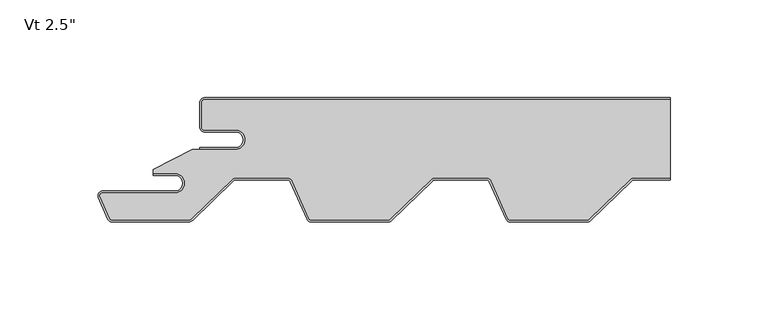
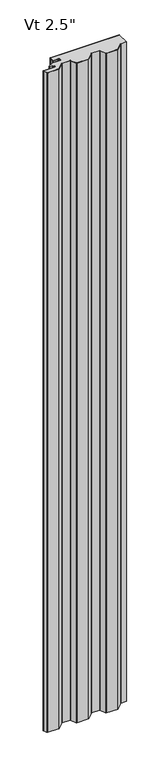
"""IFC4 building model written with IfcOpenShell, lengths in millimetres: plate geometry."""

import ifcopenshell
import ifcopenshell.guid

model = None  # the IFC model being written
_history = None  # IfcOwnerHistory: only IFC2X3 demands one
_inside = {}  # id of a spatial element -> (the spatial element, [elements in it])
_under = {}  # id of a project, library or spatial element -> (it, [spatial elements below it])
_declared = {}  # id of a project -> (the project, [libraries it declares])
_typed = {}  # id of a type object -> (the type object, [elements of that type])
_made_of = {}  # id of a material, layer set ... -> (it, [elements and type objects made of it])


def new_model(schema):
    """Start an empty IFC model of exactly this schema.

    Asked for "IFC4X3", IfcOpenShell would pick the latest addendum, in which some entities
    have other attributes; the version numbers below select the first issue.
    IFC2X3 requires an IfcOwnerHistory on every rooted entity: one is made here for all.
    """
    global model, _history
    if schema == "IFC4X3":
        model = ifcopenshell.file(schema_version=(4, 3, 0, 0))
    else:
        model = ifcopenshell.file(schema=schema)
    _inside.clear()
    _under.clear()
    _declared.clear()
    _typed.clear()
    _made_of.clear()
    _history = None
    if model.schema == "IFC2X3":
        org = make("IfcOrganization", Name="unknown")
        user = make(
            "IfcPersonAndOrganization",
            ThePerson=make("IfcPerson", FamilyName="unknown"),
            TheOrganization=org,
        )
        app = make(
            "IfcApplication",
            ApplicationDeveloper=org,
            Version="unknown",
            ApplicationFullName="unknown",
            ApplicationIdentifier="unknown",
        )
        _history = make(
            "IfcOwnerHistory",
            OwningUser=user,
            OwningApplication=app,
            ChangeAction="ADDED",
            CreationDate=0,
        )
    return model


def make(cls, **values):
    """One entity of the class cls with the attributes given. An attribute that is None is left unset."""
    return model.create_entity(
        cls, **{name: value for name, value in values.items() if value is not None}
    )


def rooted(cls, **values):
    """An entity with a GlobalId (a new one), such as an element, a storey or a relation."""
    return make(cls, GlobalId=ifcopenshell.guid.new(), OwnerHistory=_history, **values)


def si_unit(unit_type, name, prefix=None):
    """IfcSIUnit, for example si_unit("LENGTHUNIT", "METRE", prefix="MILLI")."""
    return make("IfcSIUnit", UnitType=unit_type, Prefix=prefix, Name=name)


def assignment(units):
    """IfcUnitAssignment: the units of a project."""
    return None if units is None else make("IfcUnitAssignment", Units=units)


def point(xyz):
    """IfcCartesianPoint."""
    return None if xyz is None else make("IfcCartesianPoint", Coordinates=xyz)


def direction(xyz):
    """IfcDirection."""
    return None if xyz is None else make("IfcDirection", DirectionRatios=xyz)


def frame(location, z_axis=None, x_axis=None):
    """IfcAxis2Placement3D, a coordinate frame: its origin and axes. An axis left out is left unset."""
    return make(
        "IfcAxis2Placement3D",
        Location=point(location),
        Axis=direction(z_axis),
        RefDirection=direction(x_axis),
    )


def frame_2d(location, x_axis=None):
    """IfcAxis2Placement2D, a coordinate frame in the plane: its origin and x axis."""
    return make(
        "IfcAxis2Placement2D", Location=point(location), RefDirection=direction(x_axis)
    )


def origin():
    """The frame at (0, 0, 0) with its axes left unset."""
    return frame((0.0, 0.0, 0.0))


def origin_with_axes():
    """The frame at (0, 0, 0) with the z axis (0, 0, 1) and the x axis (1, 0, 0) written out."""
    return frame((0.0, 0.0, 0.0), z_axis=(0.0, 0.0, 1.0), x_axis=(1.0, 0.0, 0.0))


def place(relative_to, where):
    """IfcLocalPlacement: puts the frame where relative to a parent placement (None: the world)."""
    return make(
        "IfcLocalPlacement", PlacementRelTo=relative_to, RelativePlacement=where
    )


def context(
    kind, dimensions, precision=None, world=None, true_north=None, identifier=None
):
    """IfcGeometricRepresentationContext, for example the 3D "Model" context."""
    return make(
        "IfcGeometricRepresentationContext",
        ContextIdentifier=identifier,
        ContextType=kind,
        CoordinateSpaceDimension=dimensions,
        Precision=precision,
        WorldCoordinateSystem=world,
        TrueNorth=true_north,
    )


def project(units=None, contexts=None):
    """IfcProject with its units and contexts."""
    return rooted(
        "IfcProject",
        Name="project",
        RepresentationContexts=contexts,
        UnitsInContext=assignment(units),
    )


def spatial(cls, under=None, at=None, **own):
    """A site, building, storey or space (cls), placed at a placement, below another one or the project."""
    s = rooted(cls, ObjectPlacement=at, **own)
    if under is not None:
        _under.setdefault(under.id(), (under, []))[1].append(s)
    return s


def polyline(points):
    """IfcPolyline through the points."""
    return make("IfcPolyline", Points=[point(p) for p in points])


def circle_curve(where, radius):
    """IfcCircle in the frame where."""
    return make("IfcCircle", Position=where, Radius=radius)


def trimmed(basis, trim1, trim2, sense, master):
    """IfcTrimmedCurve: the piece of a basis curve between two trims."""
    return make(
        "IfcTrimmedCurve",
        BasisCurve=basis,
        Trim1=trim1,
        Trim2=trim2,
        SenseAgreement=sense,
        MasterRepresentation=master,
    )


def segment(curve, same_sense, transition):
    """IfcCompositeCurveSegment."""
    return make(
        "IfcCompositeCurveSegment",
        Transition=transition,
        SameSense=same_sense,
        ParentCurve=curve,
    )


def composite_curve(segments, self_intersect=None):
    """IfcCompositeCurve: segments joined end to end."""
    return make("IfcCompositeCurve", Segments=segments, SelfIntersect=self_intersect)


def outline(outer, holes=None, kind="AREA"):
    """IfcArbitraryClosedProfileDef: a profile drawn as a closed curve; with holes, ...WithVoids."""
    if holes is None:
        return make("IfcArbitraryClosedProfileDef", ProfileType=kind, OuterCurve=outer)
    return make(
        "IfcArbitraryProfileDefWithVoids",
        ProfileType=kind,
        OuterCurve=outer,
        InnerCurves=holes,
    )


def extrude(swept, where, along, depth):
    """IfcExtrudedAreaSolid: the profile swept, set in the frame where, extruded along a direction by depth."""
    return make(
        "IfcExtrudedAreaSolid",
        SweptArea=swept,
        Position=where,
        ExtrudedDirection=direction(along),
        Depth=depth,
    )


def shape(context_of_items, identifier, shape_type, items):
    """IfcShapeRepresentation: the items that make up one representation, for example the "Body"."""
    return make(
        "IfcShapeRepresentation",
        ContextOfItems=context_of_items,
        RepresentationIdentifier=identifier,
        RepresentationType=shape_type,
        Items=items,
    )


def source(mapping_origin, context_of_items, identifier, shape_type, items):
    """IfcRepresentationMap: a shape defined once, which mapped items show again and again."""
    return make(
        "IfcRepresentationMap",
        MappingOrigin=mapping_origin,
        MappedRepresentation=shape(context_of_items, identifier, shape_type, items),
    )


def transform(
    local_origin,
    x_axis=None,
    y_axis=None,
    z_axis=None,
    scale=None,
    scale2=None,
    scale3=None,
    uniform=True,
):
    """IfcCartesianTransformationOperator3D, or its non-uniform kind. x_axis, y_axis, z_axis: its Axis1, 2, 3."""
    if uniform:
        return make(
            "IfcCartesianTransformationOperator3D",
            Axis1=direction(x_axis),
            Axis2=direction(y_axis),
            LocalOrigin=point(local_origin),
            Scale=scale,
            Axis3=direction(z_axis),
        )
    return make(
        "IfcCartesianTransformationOperator3DnonUniform",
        Axis1=direction(x_axis),
        Axis2=direction(y_axis),
        LocalOrigin=point(local_origin),
        Scale=scale,
        Axis3=direction(z_axis),
        Scale2=scale2,
        Scale3=scale3,
    )


def mapped(mapping_source, mapping_target):
    """IfcMappedItem: shows the shape of a source again, moved by a transform."""
    return make(
        "IfcMappedItem", MappingSource=mapping_source, MappingTarget=mapping_target
    )


def made_of(thing, what):
    """Note that an element or type object is made of a material, layer set ...; save() writes the relation."""
    if what is not None:
        _made_of.setdefault(what.id(), (what, []))[1].append(thing)
    return thing


def element(
    cls,
    number,
    at=None,
    inside=None,
    cuts=None,
    type_object=None,
    material=None,
    context=None,
    identifier="Body",
    shape_type=None,
    held_by="IfcProductDefinitionShape",
    body=None,
    shapes=None,
    **own,
):
    """One element of the class cls, such as IfcWall. Its Tag is "e" and its number.

    at: its placement. inside: the storey or other place that contains it. cuts: it is an
    opening in that element (IfcRelVoidsElement). A single representation is given by context,
    identifier, shape_type and body (its items); several are given by shapes. held_by: the class
    of the entity that holds the representations. save() writes the other relations.
    """
    e = rooted(cls, Tag="e%d" % number, ObjectPlacement=at, **own)
    if body is not None:
        shapes = [shape(context, identifier, shape_type, body)]
    if shapes is not None:
        e.Representation = make(held_by, Representations=shapes)
    if inside is not None:
        _inside.setdefault(inside.id(), (inside, []))[1].append(e)
    if cuts is not None:
        rooted(
            "IfcRelVoidsElement", RelatingBuildingElement=cuts, RelatedOpeningElement=e
        )
    if type_object is not None:
        _typed.setdefault(type_object.id(), (type_object, []))[1].append(e)
    return made_of(e, material)


def aggregate(whole, parts):
    """IfcRelAggregates: a whole, such as a stair, and the parts it consists of."""
    return rooted("IfcRelAggregates", RelatingObject=whole, RelatedObjects=parts)


def save(model, path):
    """Write the relations noted so far, then the file.

    IfcRelAggregates (storeys below a building ...), IfcRelContainedInSpatialStructure (elements
    in a storey), IfcRelDefinesByType, IfcRelAssociatesMaterial and IfcRelDeclares: one each for
    every whole, place, type object, material and project.
    """
    for whole, parts in _under.values():
        aggregate(whole, parts)
    for where, things in _inside.values():
        rooted(
            "IfcRelContainedInSpatialStructure",
            RelatedElements=things,
            RelatingStructure=where,
        )
    for kind, things in _typed.values():
        rooted("IfcRelDefinesByType", RelatedObjects=things, RelatingType=kind)
    for what, things in _made_of.values():
        rooted("IfcRelAssociatesMaterial", RelatedObjects=things, RelatingMaterial=what)
    for by, libraries in _declared.values():
        rooted("IfcRelDeclares", RelatingContext=by, RelatedDefinitions=libraries)
    model.write(path)


def plate_59d61003(model_context):
    return source(origin(), model_context, "Body", "SweptSolid", [
        extrude(outline(composite_curve([segment(trimmed(circle_curve(frame_2d((-101.3437498, -21.4324412)), 4.96875), [point((-101.3437498, -26.4011912))], [point((-101.3437498, -16.4636912))], True, "CARTESIAN"), True, "CONTINUOUS"), segment(polyline([(-101.3437498, -16.4636912), (-117.2187498, -16.4636912)]), True, "CONTINUOUS"), segment(trimmed(circle_curve(frame_2d((-117.2187498, -15.0824412)), 1.38125), [point((-117.2187498, -16.4636912))], [point((-118.5999998, -15.0824412))], False, "CARTESIAN"), True, "CONTINUOUS"), segment(polyline([(-118.5999998, -15.0824412), (-118.5999998, -2.3824412)]), True, "CONTINUOUS"), segment(trimmed(circle_curve(frame_2d((-117.2187498, -2.3824412)), 1.38125), [point((-118.5999998, -2.3824412))], [point((-117.2187498, -1.0011912))], False, "CARTESIAN"), True, "CONTINUOUS"), segment(polyline([(-117.2187498, -1.0011912), (120.4062498, -1.0011912), (120.4062498, -40.9862), (101.8742004, -40.9862)]), True, "CONTINUOUS"), segment(trimmed(circle_curve(frame_2d((101.8742004, -43.5737)), 2.5875), [point((101.8742004, -40.9862))], [point((100.0745498, -41.7145567))], True, "CARTESIAN"), True, "CONTINUOUS"), segment(polyline([(100.0745498, -41.7145567), (79.0036464, -62.1111912)]), True, "CONTINUOUS"), segment(trimmed(circle_curve(frame_2d((78.0429633, -61.11875)), 1.38125), [point((79.0036464, -62.1111912))], [point((78.0429633, -62.5))], False, "CARTESIAN"), True, "CONTINUOUS"), segment(polyline([(78.0429633, -62.5), (38.9062559, -62.5)]), True, "CONTINUOUS"), segment(trimmed(circle_curve(frame_2d((38.9062559, -61.11875)), 1.38125), [point((38.9062559, -62.5))], [point((37.6432556, -61.6779296))], False, "CARTESIAN"), True, "CONTINUOUS"), segment(polyline([(37.6432556, -61.6779296), (29.1640307, -42.5261871)]), True, "CONTINUOUS"), segment(trimmed(circle_curve(frame_2d((26.7980483, -43.5737)), 2.5875), [point((29.1640307, -42.5261871))], [point((26.7980483, -40.9862))], True, "CARTESIAN"), True, "CONTINUOUS"), segment(polyline([(26.7980483, -40.9862), (0.2742004, -40.9862)]), True, "CONTINUOUS"), segment(trimmed(circle_curve(frame_2d((0.2742004, -43.5737)), 2.5875), [point((0.2742004, -40.9862))], [point((-1.5254502, -41.7145567))], True, "CARTESIAN"), True, "CONTINUOUS"), segment(polyline([(-1.5254502, -41.7145567), (-22.5963536, -62.1111912)]), True, "CONTINUOUS"), segment(trimmed(circle_curve(frame_2d((-23.5570367, -61.11875)), 1.38125), [point((-22.5963536, -62.1111912))], [point((-23.5570367, -62.5))], False, "CARTESIAN"), True, "CONTINUOUS"), segment(polyline([(-23.5570367, -62.5), (-62.6937441, -62.5)]), True, "CONTINUOUS"), segment(trimmed(circle_curve(frame_2d((-62.6937441, -61.11875)), 1.38125), [point((-62.6937441, -62.5))], [point((-63.9567444, -61.6779296))], False, "CARTESIAN"), True, "CONTINUOUS"), segment(polyline([(-63.9567444, -61.6779296), (-72.4359693, -42.5261871)]), True, "CONTINUOUS"), segment(trimmed(circle_curve(frame_2d((-74.8019517, -43.5737)), 2.5875), [point((-72.4359693, -42.5261871))], [point((-74.8019517, -40.9862))], True, "CARTESIAN"), True, "CONTINUOUS"), segment(polyline([(-74.8019517, -40.9862), (-101.3257996, -40.9862)]), True, "CONTINUOUS"), segment(trimmed(circle_curve(frame_2d((-101.3257996, -43.5737)), 2.5875), [point((-101.3257996, -40.9862))], [point((-103.1254502, -41.7145567))], True, "CARTESIAN"), True, "CONTINUOUS"), segment(polyline([(-103.1254502, -41.7145567), (-123.987693, -61.9092077)]), True, "CONTINUOUS"), segment(trimmed(circle_curve(frame_2d((-125.4474444, -60.4012)), 2.0988), [point((-123.987693, -61.9092077))], [point((-125.4474444, -62.5))], False, "CARTESIAN"), True, "CONTINUOUS"), segment(polyline([(-125.4474444, -62.5), (-164.2937441, -62.5)]), True, "CONTINUOUS"), segment(trimmed(circle_curve(frame_2d((-164.2937441, -61.11875)), 1.38125), [point((-164.2937441, -62.5))], [point((-165.5567444, -61.6779296))], False, "CARTESIAN"), True, "CONTINUOUS"), segment(polyline([(-165.5567444, -61.6779296), (-170.4761551, -50.5666208)]), True, "CONTINUOUS"), segment(trimmed(circle_curve(frame_2d((-169.2131548, -50.0074412)), 1.38125), [point((-170.4761551, -50.5666208))], [point((-169.2131548, -48.6261912))], False, "CARTESIAN"), True, "CONTINUOUS"), segment(polyline([(-169.2131548, -48.6261912), (-132.2999998, -48.6261912)]), True, "CONTINUOUS"), segment(trimmed(circle_curve(frame_2d((-132.2999998, -43.6574412)), 4.96875), [point((-132.2999998, -48.6261912))], [point((-132.2999998, -38.6886912))], True, "CARTESIAN"), True, "CONTINUOUS"), segment(polyline([(-132.2999998, -38.6886912), (-143.4124998, -38.6886912), (-143.4124998, -36.533822), (-123.591411, -26.4011912), (-101.3437498, -26.4011912)]), True, "CONTINUOUS")], self_intersect=False)), origin_with_axes(), (0.0, 0.0, 1.0), 2400.0),
        extrude(outline(composite_curve([segment(polyline([(-119.5999998, -25.4), (-101.3437498, -25.4)]), True, "CONTINUOUS"), segment(trimmed(circle_curve(frame_2d((-101.3437498, -21.43125)), 3.96875), [point((-101.3437498, -25.4))], [point((-101.3437498, -17.4625))], True, "CARTESIAN"), True, "CONTINUOUS"), segment(polyline([(-101.3437498, -17.4625), (-117.2187498, -17.4625)]), True, "CONTINUOUS"), segment(trimmed(circle_curve(frame_2d((-117.2187498, -15.08125)), 2.38125), [point((-117.2187498, -17.4625))], [point((-119.5999998, -15.08125))], False, "CARTESIAN"), True, "CONTINUOUS"), segment(polyline([(-119.5999998, -15.08125), (-119.5999998, -2.38125)]), True, "CONTINUOUS"), segment(trimmed(circle_curve(frame_2d((-117.2187498, -2.38125)), 2.38125), [point((-119.5999998, -2.38125))], [point((-117.2187498, 0.0))], False, "CARTESIAN"), True, "CONTINUOUS"), segment(polyline([(-117.2187498, 0.0), (120.4062498, 0.0), (120.4062498, -1.0), (-117.2187498, -1.0)]), True, "CONTINUOUS"), segment(trimmed(circle_curve(frame_2d((-117.2187498, -2.38125)), 1.38125), [point((-117.2187498, -1.0))], [point((-118.5999998, -2.38125))], True, "CARTESIAN"), True, "CONTINUOUS"), segment(polyline([(-118.5999998, -2.38125), (-118.5999998, -15.08125)]), True, "CONTINUOUS"), segment(trimmed(circle_curve(frame_2d((-117.2187498, -15.08125)), 1.38125), [point((-118.5999998, -15.08125))], [point((-117.2187498, -16.4625))], True, "CARTESIAN"), True, "CONTINUOUS"), segment(polyline([(-117.2187498, -16.4625), (-101.3437498, -16.4625)]), True, "CONTINUOUS"), segment(trimmed(circle_curve(frame_2d((-101.3437498, -21.43125)), 4.96875), [point((-101.3437498, -16.4625))], [point((-101.3437498, -26.4))], False, "CARTESIAN"), True, "CONTINUOUS"), segment(polyline([(-101.3437498, -26.4), (-119.5999998, -26.4), (-119.5999998, -25.4)]), True, "CONTINUOUS")], self_intersect=False)), origin_with_axes(), (0.0, 0.0, 1.0), 2400.0),
        extrude(outline(composite_curve([segment(trimmed(circle_curve(frame_2d((-132.2999998, -43.6574412)), 3.96875), [point((-132.2999998, -47.6261912))], [point((-132.2999998, -39.6886912))], True, "CARTESIAN"), True, "CONTINUOUS"), segment(polyline([(-132.2999998, -39.6886912), (-143.4124998, -39.6886912), (-143.4124998, -38.6886912), (-132.2999998, -38.6886912)]), True, "CONTINUOUS"), segment(trimmed(circle_curve(frame_2d((-132.2999998, -43.6574412)), 4.96875), [point((-132.2999998, -38.6886912))], [point((-132.2999998, -48.6261912))], False, "CARTESIAN"), True, "CONTINUOUS"), segment(polyline([(-132.2999998, -48.6261912), (-169.2131548, -48.6261912)]), True, "CONTINUOUS"), segment(trimmed(circle_curve(frame_2d((-169.2131548, -50.0074412)), 1.38125), [point((-169.2131548, -48.6261912))], [point((-170.4761551, -50.5666208))], True, "CARTESIAN"), True, "CONTINUOUS"), segment(polyline([(-170.4761551, -50.5666208), (-165.5567444, -61.6779296)]), True, "CONTINUOUS"), segment(trimmed(circle_curve(frame_2d((-164.2937441, -61.11875)), 1.38125), [point((-165.5567444, -61.6779296))], [point((-164.2937441, -62.5))], True, "CARTESIAN"), True, "CONTINUOUS"), segment(polyline([(-164.2937441, -62.5), (-125.4474444, -62.5)]), True, "CONTINUOUS"), segment(trimmed(circle_curve(frame_2d((-125.4474444, -60.4012)), 2.0988), [point((-125.4474444, -62.5))], [point((-123.987693, -61.9092077))], True, "CARTESIAN"), True, "CONTINUOUS"), segment(polyline([(-123.987693, -61.9092077), (-103.1254502, -41.7145567)]), True, "CONTINUOUS"), segment(trimmed(circle_curve(frame_2d((-101.3257996, -43.5737)), 2.5875), [point((-103.1254502, -41.7145567))], [point((-101.3257996, -40.9862))], False, "CARTESIAN"), True, "CONTINUOUS"), segment(polyline([(-101.3257996, -40.9862), (-74.8019517, -40.9862)]), True, "CONTINUOUS"), segment(trimmed(circle_curve(frame_2d((-74.8019517, -43.5737)), 2.5875), [point((-74.8019517, -40.9862))], [point((-72.4359693, -42.5261871))], False, "CARTESIAN"), True, "CONTINUOUS"), segment(polyline([(-72.4359693, -42.5261871), (-63.9567444, -61.6779296)]), True, "CONTINUOUS"), segment(trimmed(circle_curve(frame_2d((-62.6937441, -61.11875)), 1.38125), [point((-63.9567444, -61.6779296))], [point((-62.6937441, -62.5))], True, "CARTESIAN"), True, "CONTINUOUS"), segment(polyline([(-62.6937441, -62.5), (-23.5570367, -62.5)]), True, "CONTINUOUS"), segment(trimmed(circle_curve(frame_2d((-23.5570367, -61.11875)), 1.38125), [point((-23.5570367, -62.5))], [point((-22.5963536, -62.1111912))], True, "CARTESIAN"), True, "CONTINUOUS"), segment(polyline([(-22.5963536, -62.1111912), (-1.5254502, -41.7145567)]), True, "CONTINUOUS"), segment(trimmed(circle_curve(frame_2d((0.2742004, -43.5737)), 2.5875), [point((-1.5254502, -41.7145567))], [point((0.2742004, -40.9862))], False, "CARTESIAN"), True, "CONTINUOUS"), segment(polyline([(0.2742004, -40.9862), (26.7980483, -40.9862)]), True, "CONTINUOUS"), segment(trimmed(circle_curve(frame_2d((26.7980483, -43.5737)), 2.5875), [point((26.7980483, -40.9862))], [point((29.1640307, -42.5261871))], False, "CARTESIAN"), True, "CONTINUOUS"), segment(polyline([(29.1640307, -42.5261871), (37.6432556, -61.6779296)]), True, "CONTINUOUS"), segment(trimmed(circle_curve(frame_2d((38.9062559, -61.11875)), 1.38125), [point((37.6432556, -61.6779296))], [point((38.9062559, -62.5))], True, "CARTESIAN"), True, "CONTINUOUS"), segment(polyline([(38.9062559, -62.5), (78.0429633, -62.5)]), True, "CONTINUOUS"), segment(trimmed(circle_curve(frame_2d((78.0429633, -61.11875)), 1.38125), [point((78.0429633, -62.5))], [point((79.0036464, -62.1111912))], True, "CARTESIAN"), True, "CONTINUOUS"), segment(polyline([(79.0036464, -62.1111912), (100.0745498, -41.7145567)]), True, "CONTINUOUS"), segment(trimmed(circle_curve(frame_2d((101.8742004, -43.5737)), 2.5875), [point((100.0745498, -41.7145567))], [point((101.8742004, -40.9862))], False, "CARTESIAN"), True, "CONTINUOUS"), segment(polyline([(101.8742004, -40.9862), (120.4062498, -40.9862), (120.4062498, -41.9862), (101.8742004, -41.9862)]), True, "CONTINUOUS"), segment(trimmed(circle_curve(frame_2d((101.8742004, -43.5737)), 1.5875), [point((101.8742004, -41.9862))], [point((100.7700669, -42.4330662))], True, "CARTESIAN"), True, "CONTINUOUS"), segment(polyline([(100.7700669, -42.4330662), (79.6991635, -62.8297007)]), True, "CONTINUOUS"), segment(trimmed(circle_curve(frame_2d((78.0429633, -61.11875)), 2.38125), [point((79.6991635, -62.8297007))], [point((78.0429633, -63.5))], False, "CARTESIAN"), True, "CONTINUOUS"), segment(polyline([(78.0429633, -63.5), (38.9062559, -63.5)]), True, "CONTINUOUS"), segment(trimmed(circle_curve(frame_2d((38.9062559, -61.11875)), 2.38125), [point((38.9062559, -63.5))], [point((36.7288662, -62.0827655))], False, "CARTESIAN"), True, "CONTINUOUS"), segment(polyline([(36.7288662, -62.0827655), (28.2496414, -42.931023)]), True, "CONTINUOUS"), segment(trimmed(circle_curve(frame_2d((26.7980483, -43.5737)), 1.5875), [point((28.2496414, -42.931023))], [point((26.7980483, -41.9862))], True, "CARTESIAN"), True, "CONTINUOUS"), segment(polyline([(26.7980483, -41.9862), (0.2742004, -41.9862)]), True, "CONTINUOUS"), segment(trimmed(circle_curve(frame_2d((0.2742004, -43.5737)), 1.5875), [point((0.2742004, -41.9862))], [point((-0.8299331, -42.4330662))], True, "CARTESIAN"), True, "CONTINUOUS"), segment(polyline([(-0.8299331, -42.4330662), (-21.9008365, -62.8297007)]), True, "CONTINUOUS"), segment(trimmed(circle_curve(frame_2d((-23.5570367, -61.11875)), 2.38125), [point((-21.9008365, -62.8297007))], [point((-23.5570367, -63.5))], False, "CARTESIAN"), True, "CONTINUOUS"), segment(polyline([(-23.5570367, -63.5), (-62.6937441, -63.5)]), True, "CONTINUOUS"), segment(trimmed(circle_curve(frame_2d((-62.6937441, -61.11875)), 2.38125), [point((-62.6937441, -63.5))], [point((-64.8711338, -62.0827655))], False, "CARTESIAN"), True, "CONTINUOUS"), segment(polyline([(-64.8711338, -62.0827655), (-73.3503586, -42.931023)]), True, "CONTINUOUS"), segment(trimmed(circle_curve(frame_2d((-74.8019517, -43.5737)), 1.5875), [point((-73.3503586, -42.931023))], [point((-74.8019517, -41.9862))], True, "CARTESIAN"), True, "CONTINUOUS"), segment(polyline([(-74.8019517, -41.9862), (-101.3257996, -41.9862)]), True, "CONTINUOUS"), segment(trimmed(circle_curve(frame_2d((-101.3257996, -43.5737)), 1.5875), [point((-101.3257996, -41.9862))], [point((-102.4299331, -42.4330662))], True, "CARTESIAN"), True, "CONTINUOUS"), segment(polyline([(-102.4299331, -42.4330662), (-123.2921758, -62.6277172)]), True, "CONTINUOUS"), segment(trimmed(circle_curve(frame_2d((-125.4474444, -60.4012)), 3.0988), [point((-123.2921758, -62.6277172))], [point((-125.4474444, -63.5))], False, "CARTESIAN"), True, "CONTINUOUS"), segment(polyline([(-125.4474444, -63.5), (-164.2937441, -63.5)]), True, "CONTINUOUS"), segment(trimmed(circle_curve(frame_2d((-164.2937441, -61.11875)), 2.38125), [point((-164.2937441, -63.5))], [point((-166.4711338, -62.0827655))], False, "CARTESIAN"), True, "CONTINUOUS"), segment(polyline([(-166.4711338, -62.0827655), (-171.3905444, -50.9714567)]), True, "CONTINUOUS"), segment(trimmed(circle_curve(frame_2d((-169.2131548, -50.0074412)), 2.38125), [point((-171.3905444, -50.9714567))], [point((-169.2131548, -47.6261912))], False, "CARTESIAN"), True, "CONTINUOUS"), segment(polyline([(-169.2131548, -47.6261912), (-132.2999998, -47.6261912)]), True, "CONTINUOUS")], self_intersect=False)), origin_with_axes(), (0.0, 0.0, 1.0), 2400.0),
    ])


if __name__ == "__main__":
    model = new_model("IFC4")
    model_context = context("Model", 3, world=origin())
    ifc_project = project(units=[si_unit("LENGTHUNIT", "METRE", prefix="MILLI")], contexts=[model_context])
    site = spatial("IfcSite", under=ifc_project)
    building = spatial("IfcBuilding", under=site)
    placement = place(None, origin())
    plate_shape = plate_59d61003(model_context)
    element("IfcPlate", 1, ObjectType="KIP-16-DWR-R19-CP-Vt-S : Vt 2.5\"", at=placement, inside=building, context=model_context, shape_type="MappedRepresentation", body=[
        mapped(plate_shape, transform((0.0, 0.0, 0.0), x_axis=(1.0, 0.0, 0.0), y_axis=(0.0, 1.0, 0.0), z_axis=(0.0, 0.0, 1.0))),
    ])
    save(model, "model.ifc")
